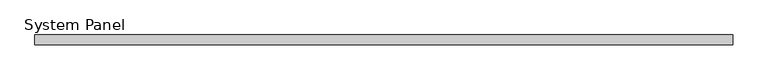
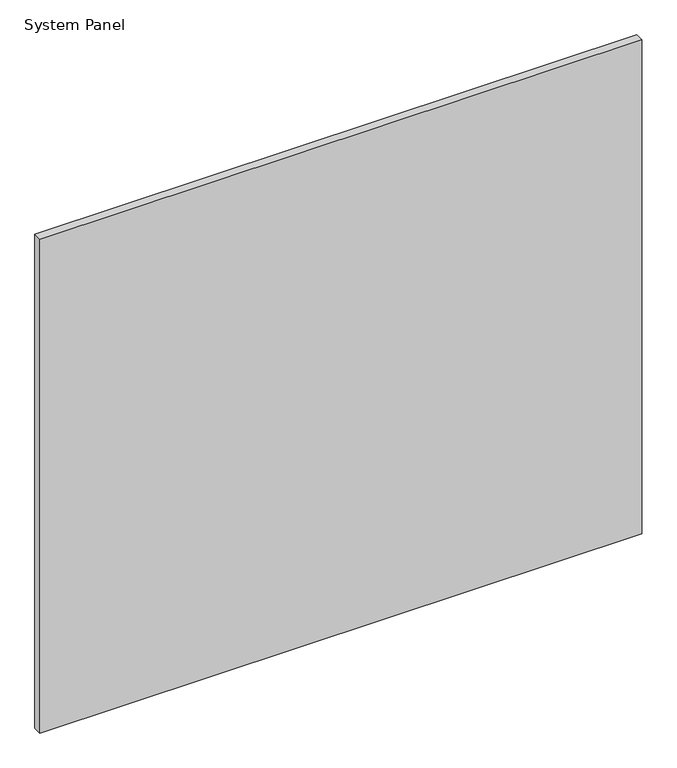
"""IFC4 building model written with IfcOpenShell, lengths in millimetres: plate geometry, System Panel : GUARDA-CORPO DE VIDRO TEMPERADO LAMINADO LISO 16 mm."""

from ifc_helpers import new_model, si_unit, origin, origin_with_axes, place, context, project, spatial, polyline, outline, extrude, source, transform, mapped, element, save


def system_panel_bc985cdc(model_context):
    return source(origin(), model_context, "Body", "SweptSolid", [
        extrude(outline(polyline([(576.1904762, -8.0), (-576.1904762, -8.0), (-576.1904762, 8.0), (576.1904762, 8.0), (576.1904762, -8.0)])), origin_with_axes(), (0.0, 0.0, 1.0), 1000.0),
    ])


if __name__ == "__main__":
    model = new_model("IFC4")
    model_context = context("Model", 3, world=origin())
    ifc_project = project(units=[si_unit("LENGTHUNIT", "METRE", prefix="MILLI")], contexts=[model_context])
    site = spatial("IfcSite", under=ifc_project)
    building = spatial("IfcBuilding", under=site)
    placement = place(None, origin())
    system_panel_shape = system_panel_bc985cdc(model_context)
    element("IfcPlate", 1, ObjectType="System Panel : GUARDA-CORPO DE VIDRO TEMPERADO LAMINADO LISO 16 mm", at=placement, inside=building, context=model_context, shape_type="MappedRepresentation", body=[
        mapped(system_panel_shape, transform((0.0, 0.0, 0.0), x_axis=(1.0, 0.0, 0.0), y_axis=(0.0, 1.0, 0.0), z_axis=(0.0, 0.0, 1.0))),
    ])
    save(model, "model.ifc")
